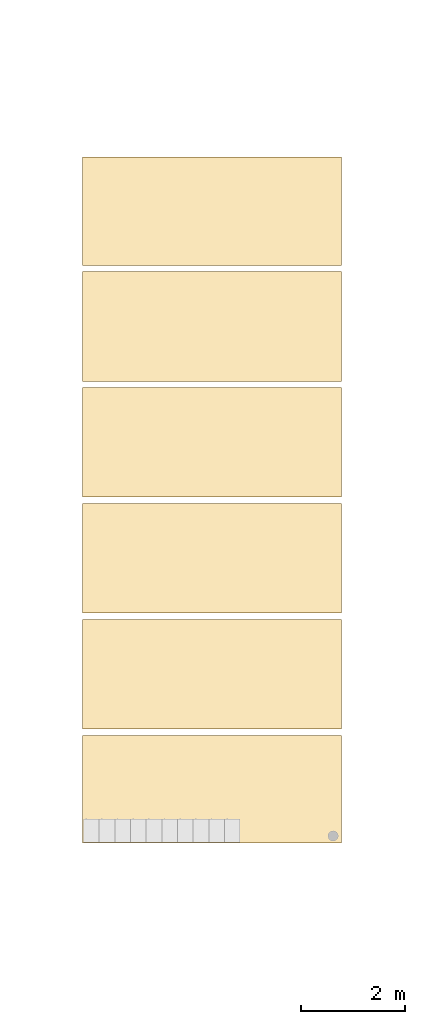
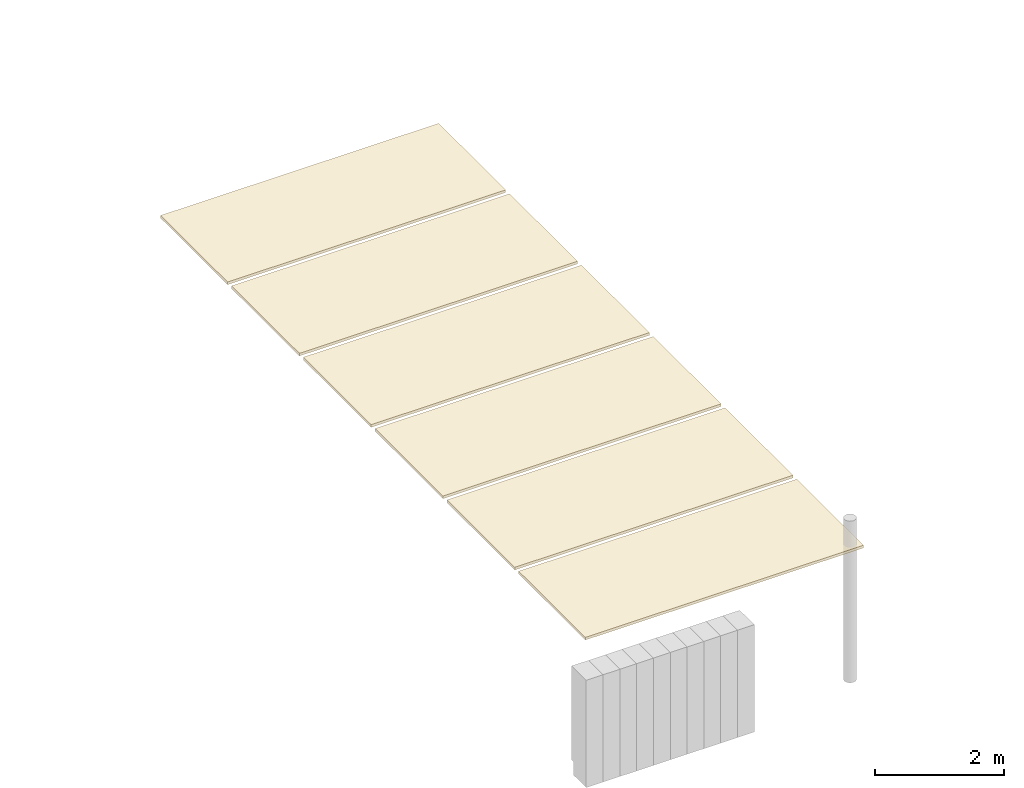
# One storey, part 2 of 4: 6 coverings.
"""IFC2X3 building model written with IfcOpenShell, lengths in centimetres."""

import ifcopenshell
import ifcopenshell.guid

model = None  # the IFC model being written
_history = None  # IfcOwnerHistory: only IFC2X3 demands one
_inside = {}  # id of a spatial element -> (the spatial element, [elements in it])
_under = {}  # id of a project, library or spatial element -> (it, [spatial elements below it])
_declared = {}  # id of a project -> (the project, [libraries it declares])
_typed = {}  # id of a type object -> (the type object, [elements of that type])
_made_of = {}  # id of a material, layer set ... -> (it, [elements and type objects made of it])


def new_model(schema):
    """Start an empty IFC model of exactly this schema.

    Asked for "IFC4X3", IfcOpenShell would pick the latest addendum, in which some entities
    have other attributes; the version numbers below select the first issue.
    IFC2X3 requires an IfcOwnerHistory on every rooted entity: one is made here for all.
    """
    global model, _history
    if schema == "IFC4X3":
        model = ifcopenshell.file(schema_version=(4, 3, 0, 0))
    else:
        model = ifcopenshell.file(schema=schema)
    _inside.clear()
    _under.clear()
    _declared.clear()
    _typed.clear()
    _made_of.clear()
    _history = None
    if model.schema == "IFC2X3":
        org = make("IfcOrganization", Name="unknown")
        user = make(
            "IfcPersonAndOrganization",
            ThePerson=make("IfcPerson", FamilyName="unknown"),
            TheOrganization=org,
        )
        app = make(
            "IfcApplication",
            ApplicationDeveloper=org,
            Version="unknown",
            ApplicationFullName="unknown",
            ApplicationIdentifier="unknown",
        )
        _history = make(
            "IfcOwnerHistory",
            OwningUser=user,
            OwningApplication=app,
            ChangeAction="ADDED",
            CreationDate=0,
        )
    return model


def make(cls, **values):
    """One entity of the class cls with the attributes given. An attribute that is None is left unset."""
    return model.create_entity(
        cls, **{name: value for name, value in values.items() if value is not None}
    )


def entity(cls, *values):
    """Any entity or typed value of the class cls, its attributes in the order of the schema. None: left unset."""
    e = model.create_entity(cls)
    for i, value in enumerate(values):
        if value is not None:
            e[i] = value
    return e


def rooted(cls, **values):
    """An entity with a GlobalId (a new one), such as an element, a storey or a relation."""
    return make(cls, GlobalId=ifcopenshell.guid.new(), OwnerHistory=_history, **values)


def si_unit(unit_type, name, prefix=None):
    """IfcSIUnit, for example si_unit("LENGTHUNIT", "METRE", prefix="MILLI")."""
    return make("IfcSIUnit", UnitType=unit_type, Prefix=prefix, Name=name)


def converted_unit(unit_type, name, factor, base, dimensions=None, offset=None):
    """IfcConversionBasedUnit, such as the inch: factor (a typed value) times the base unit."""
    return make(
        "IfcConversionBasedUnit"
        if offset is None
        else "IfcConversionBasedUnitWithOffset",
        ConversionOffset=offset,
        Dimensions=None
        if dimensions is None
        else entity("IfcDimensionalExponents", *dimensions),
        UnitType=unit_type,
        Name=name,
        ConversionFactor=make(
            "IfcMeasureWithUnit", ValueComponent=factor, UnitComponent=base
        ),
    )


def derived_unit(unit_type, elements):
    """IfcDerivedUnit: a product of units, each with its exponent."""
    return make(
        "IfcDerivedUnit",
        Elements=[
            make("IfcDerivedUnitElement", Unit=unit, Exponent=power)
            for unit, power in elements
        ],
        UnitType=unit_type,
    )


def assignment(units):
    """IfcUnitAssignment: the units of a project."""
    return None if units is None else make("IfcUnitAssignment", Units=units)


def point(xyz):
    """IfcCartesianPoint."""
    return None if xyz is None else make("IfcCartesianPoint", Coordinates=xyz)


def direction(xyz):
    """IfcDirection."""
    return None if xyz is None else make("IfcDirection", DirectionRatios=xyz)


def frame(location, z_axis=None, x_axis=None):
    """IfcAxis2Placement3D, a coordinate frame: its origin and axes. An axis left out is left unset."""
    return make(
        "IfcAxis2Placement3D",
        Location=point(location),
        Axis=direction(z_axis),
        RefDirection=direction(x_axis),
    )


def frame_2d(location, x_axis=None):
    """IfcAxis2Placement2D, a coordinate frame in the plane: its origin and x axis."""
    return make(
        "IfcAxis2Placement2D", Location=point(location), RefDirection=direction(x_axis)
    )


def origin():
    """The frame at (0, 0, 0) with its axes left unset."""
    return frame((0.0, 0.0, 0.0))


def place(relative_to, where):
    """IfcLocalPlacement: puts the frame where relative to a parent placement (None: the world)."""
    return make(
        "IfcLocalPlacement", PlacementRelTo=relative_to, RelativePlacement=where
    )


def context(
    kind, dimensions, precision=None, world=None, true_north=None, identifier=None
):
    """IfcGeometricRepresentationContext, for example the 3D "Model" context."""
    return make(
        "IfcGeometricRepresentationContext",
        ContextIdentifier=identifier,
        ContextType=kind,
        CoordinateSpaceDimension=dimensions,
        Precision=precision,
        WorldCoordinateSystem=world,
        TrueNorth=true_north,
    )


def subcontext(parent, identifier, kind, view, scale=None):
    """IfcGeometricRepresentationSubContext, for example "Body" below "Model"."""
    return make(
        "IfcGeometricRepresentationSubContext",
        ContextIdentifier=identifier,
        ContextType=kind,
        ParentContext=parent,
        TargetScale=scale,
        TargetView=view,
    )


def project(units=None, contexts=None):
    """IfcProject with its units and contexts."""
    return rooted(
        "IfcProject",
        Name="project",
        RepresentationContexts=contexts,
        UnitsInContext=assignment(units),
    )


def spatial(cls, under=None, at=None, **own):
    """A site, building, storey or space (cls), placed at a placement, below another one or the project."""
    s = rooted(cls, ObjectPlacement=at, **own)
    if under is not None:
        _under.setdefault(under.id(), (under, []))[1].append(s)
    return s


def profile(cls, at=None, kind="AREA", **sizes):
    """A parametric profile (cls). Its sizes go by their IFC names, for example OverallWidth=200.0."""
    return make(cls, ProfileType=kind, Position=at, **sizes)


def rectangle(**sizes):
    """IfcRectangleProfileDef."""
    return profile("IfcRectangleProfileDef", **sizes)


def extrude(swept, where, along, depth):
    """IfcExtrudedAreaSolid: the profile swept, set in the frame where, extruded along a direction by depth."""
    return make(
        "IfcExtrudedAreaSolid",
        SweptArea=swept,
        Position=where,
        ExtrudedDirection=direction(along),
        Depth=depth,
    )


def shape(context_of_items, identifier, shape_type, items):
    """IfcShapeRepresentation: the items that make up one representation, for example the "Body"."""
    return make(
        "IfcShapeRepresentation",
        ContextOfItems=context_of_items,
        RepresentationIdentifier=identifier,
        RepresentationType=shape_type,
        Items=items,
    )


def material(Name=None, Category=None):
    """IfcMaterial."""
    return make("IfcMaterial", Name=Name, Category=Category)


def layer(
    of_material, thickness, ventilated=None, Name=None, Category=None, Priority=None
):
    """IfcMaterialLayer: one layer of a wall or slab, of a material (None: an air gap)."""
    return make(
        "IfcMaterialLayer",
        Material=of_material,
        LayerThickness=thickness,
        IsVentilated=ventilated,
        Name=Name,
        Category=Category,
        Priority=Priority,
    )


def layer_set(layers, Name=None):
    """IfcMaterialLayerSet."""
    return make("IfcMaterialLayerSet", MaterialLayers=layers, LayerSetName=Name)


def layer_usage(for_layer_set, set_direction, sense, offset, extent=None):
    """IfcMaterialLayerSetUsage: how a layer set lies in its element."""
    return make(
        "IfcMaterialLayerSetUsage",
        ForLayerSet=for_layer_set,
        LayerSetDirection=set_direction,
        DirectionSense=sense,
        OffsetFromReferenceLine=offset,
        ReferenceExtent=extent,
    )


def made_of(thing, what):
    """Note that an element or type object is made of a material, layer set ...; save() writes the relation."""
    if what is not None:
        _made_of.setdefault(what.id(), (what, []))[1].append(thing)
    return thing


def element(
    cls,
    number,
    at=None,
    inside=None,
    cuts=None,
    type_object=None,
    material=None,
    context=None,
    identifier="Body",
    shape_type=None,
    held_by="IfcProductDefinitionShape",
    body=None,
    shapes=None,
    **own,
):
    """One element of the class cls, such as IfcWall. Its Tag is "e" and its number.

    at: its placement. inside: the storey or other place that contains it. cuts: it is an
    opening in that element (IfcRelVoidsElement). A single representation is given by context,
    identifier, shape_type and body (its items); several are given by shapes. held_by: the class
    of the entity that holds the representations. save() writes the other relations.
    """
    e = rooted(cls, Tag="e%d" % number, ObjectPlacement=at, **own)
    if body is not None:
        shapes = [shape(context, identifier, shape_type, body)]
    if shapes is not None:
        e.Representation = make(held_by, Representations=shapes)
    if inside is not None:
        _inside.setdefault(inside.id(), (inside, []))[1].append(e)
    if cuts is not None:
        rooted(
            "IfcRelVoidsElement", RelatingBuildingElement=cuts, RelatedOpeningElement=e
        )
    if type_object is not None:
        _typed.setdefault(type_object.id(), (type_object, []))[1].append(e)
    return made_of(e, material)


def aggregate(whole, parts):
    """IfcRelAggregates: a whole, such as a stair, and the parts it consists of."""
    return rooted("IfcRelAggregates", RelatingObject=whole, RelatedObjects=parts)


def save(model, path):
    """Write the relations noted so far, then the file.

    IfcRelAggregates (storeys below a building ...), IfcRelContainedInSpatialStructure (elements
    in a storey), IfcRelDefinesByType, IfcRelAssociatesMaterial and IfcRelDeclares: one each for
    every whole, place, type object, material and project.
    """
    for whole, parts in _under.values():
        aggregate(whole, parts)
    for where, things in _inside.values():
        rooted(
            "IfcRelContainedInSpatialStructure",
            RelatedElements=things,
            RelatingStructure=where,
        )
    for kind, things in _typed.values():
        rooted("IfcRelDefinesByType", RelatedObjects=things, RelatingType=kind)
    for what, things in _made_of.values():
        rooted("IfcRelAssociatesMaterial", RelatedObjects=things, RelatingMaterial=what)
    for by, libraries in _declared.values():
        rooted("IfcRelDeclares", RelatingContext=by, RelatedDefinitions=libraries)
    model.write(path)


model = new_model("IFC2X3")

# Units and contexts
model_context = context("Model", 3, precision=0.001, world=origin(), true_north=direction((6.12303176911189e-17, 1.0)))
body_context = subcontext(model_context, "Body", "Model", "MODEL_VIEW")
ifc_project = project(units=[si_unit("LENGTHUNIT", "METRE", prefix="CENTI"), si_unit("AREAUNIT", "SQUARE_METRE"), si_unit("VOLUMEUNIT", "CUBIC_METRE"), converted_unit("PLANEANGLEUNIT", "DEGREE", entity("IfcRatioMeasure", 0.0174532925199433), si_unit("PLANEANGLEUNIT", "RADIAN"), dimensions=[0, 0, 0, 0, 0, 0, 0]), si_unit("MASSUNIT", "GRAM", prefix="KILO"), si_unit("TIMEUNIT", "SECOND"), si_unit("FREQUENCYUNIT", "HERTZ"), si_unit("THERMODYNAMICTEMPERATUREUNIT", "DEGREE_CELSIUS"), derived_unit("THERMALTRANSMITTANCEUNIT", [(si_unit("MASSUNIT", "GRAM", prefix="KILO"), 1), (si_unit("THERMODYNAMICTEMPERATUREUNIT", "KELVIN"), -1), (si_unit("TIMEUNIT", "SECOND"), -3)]), derived_unit("VOLUMETRICFLOWRATEUNIT", [(si_unit("LENGTHUNIT", "METRE"), 3), (si_unit("TIMEUNIT", "SECOND"), -1)]), si_unit("ELECTRICCURRENTUNIT", "AMPERE"), si_unit("ELECTRICVOLTAGEUNIT", "VOLT"), si_unit("POWERUNIT", "WATT"), si_unit("FORCEUNIT", "NEWTON", prefix="KILO"), si_unit("ILLUMINANCEUNIT", "LUX"), si_unit("LUMINOUSFLUXUNIT", "LUMEN"), si_unit("LUMINOUSINTENSITYUNIT", "CANDELA"), derived_unit("USERDEFINED", [(si_unit("MASSUNIT", "GRAM", prefix="KILO"), -1), (si_unit("LENGTHUNIT", "METRE"), -2), (si_unit("TIMEUNIT", "SECOND"), 3), (si_unit("LUMINOUSFLUXUNIT", "LUMEN"), 1)]), derived_unit("LINEARVELOCITYUNIT", [(si_unit("LENGTHUNIT", "METRE"), 1), (si_unit("TIMEUNIT", "SECOND"), -1)]), si_unit("PRESSUREUNIT", "PASCAL"), derived_unit("USERDEFINED", [(si_unit("LENGTHUNIT", "METRE"), -2), (si_unit("MASSUNIT", "GRAM", prefix="KILO"), 1), (si_unit("TIMEUNIT", "SECOND"), -2)])], contexts=[model_context])

# Site, building, storey, space
site_placement = place(None, frame((8.62739174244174, -249.285249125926, 0.0)))
site = spatial("IfcSite", under=ifc_project, at=site_placement, Name="Default", CompositionType="ELEMENT")
building_placement = place(site_placement, origin())
building = spatial("IfcBuilding", under=site, at=building_placement, CompositionType="ELEMENT")
storey_placement = place(building_placement, frame((0.0, 0.0, 30.0)))
storey = spatial("IfcBuildingStorey", under=building, at=storey_placement, Name="vestiaires", CompositionType="ELEMENT", Elevation=30.0)
space_1_placement = place(storey_placement, origin())
space_1 = spatial("IfcSpace", under=storey, at=space_1_placement, Name="118", CompositionType="ELEMENT", InteriorOrExteriorSpace="INTERNAL")

# Covering
ifc_material = material(Name="Maçonnerie - Isolant_MU")
ifc_layer = layer(ifc_material, 5.0)
ifc_layer_set = layer_set([ifc_layer], Name="Plafond composé:Plafond avec isolation")
ifc_layer_usage_1 = layer_usage(ifc_layer_set, "AXIS3", "NEGATIVE", 0.0)
covering_1_placement = place(space_1_placement, frame((0.0, 0.0, -30.0)))
element("IfcCovering", 1, at=covering_1_placement, inside=space_1, material=ifc_layer_usage_1, Name="Plafond composé:Plafond avec isolation", ObjectType="Plafond composé:Plafond avec isolation", PredefinedType="CEILING", context=body_context, shape_type="SweptSolid", body=[
    extrude(rectangle(XDim=207.250000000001, YDim=496.499999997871, at=frame_2d((2.1316282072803e-13, -9.9475983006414e-14), x_axis=(1.0, 0.0))), frame((1284.90482780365, 2706.10520806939, 280.0), z_axis=(0.0, 0.0, 1.0), x_axis=(0.0, 1.0, 0.0)), (0.0, 0.0, 1.0), 5.0),
])

# Space
space_2_placement = place(storey_placement, origin())
space_2 = spatial("IfcSpace", under=storey, at=space_2_placement, Name="104", CompositionType="ELEMENT", InteriorOrExteriorSpace="INTERNAL")

# Covering
ifc_layer_usage_2 = layer_usage(ifc_layer_set, "AXIS3", "NEGATIVE", 0.0)
covering_2_placement = place(space_2_placement, frame((0.0, 0.0, -30.0)))
element("IfcCovering", 2, at=covering_2_placement, inside=space_2, material=ifc_layer_usage_2, Name="Plafond composé:Plafond avec isolation", ObjectType="Plafond composé:Plafond avec isolation", PredefinedType="CEILING", context=body_context, shape_type="SweptSolid", body=[
    extrude(rectangle(XDim=496.499999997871, YDim=210.0, at=frame_2d((-1.13686837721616e-13, -4.33431068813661e-13), x_axis=(1.0, 0.0))), frame((1284.90482780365, 2485.48020806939, 280.0)), (0.0, 0.0, 1.0), 5.0),
])

# Space
space_3_placement = place(storey_placement, origin())
space_3 = spatial("IfcSpace", under=storey, at=space_3_placement, Name="107", CompositionType="ELEMENT", InteriorOrExteriorSpace="INTERNAL")

# Covering
ifc_layer_usage_3 = layer_usage(ifc_layer_set, "AXIS3", "NEGATIVE", 0.0)
covering_3_placement = place(space_3_placement, frame((0.0, 0.0, -30.0)))
element("IfcCovering", 3, at=covering_3_placement, inside=space_3, material=ifc_layer_usage_3, Name="Plafond composé:Plafond avec isolation", ObjectType="Plafond composé:Plafond avec isolation", PredefinedType="CEILING", context=body_context, shape_type="SweptSolid", body=[
    extrude(rectangle(XDim=210.0, YDim=496.499999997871, at=frame_2d((2.1316282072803e-13, -9.9475983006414e-14), x_axis=(1.0, 0.0))), frame((1284.90482780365, 2263.48020806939, 280.0), z_axis=(0.0, 0.0, 1.0), x_axis=(0.0, 1.0, 0.0)), (0.0, 0.0, 1.0), 5.0),
])

# Space
space_4_placement = place(storey_placement, origin())
space_4 = spatial("IfcSpace", under=storey, at=space_4_placement, Name="109", CompositionType="ELEMENT", InteriorOrExteriorSpace="INTERNAL")

# Covering
ifc_layer_usage_4 = layer_usage(ifc_layer_set, "AXIS3", "NEGATIVE", 0.0)
covering_4_placement = place(space_4_placement, frame((0.0, 0.0, -30.0)))
element("IfcCovering", 4, at=covering_4_placement, inside=space_4, material=ifc_layer_usage_4, Name="Plafond composé:Plafond avec isolation", ObjectType="Plafond composé:Plafond avec isolation", PredefinedType="CEILING", context=body_context, shape_type="SweptSolid", body=[
    extrude(rectangle(XDim=210.000000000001, YDim=496.499999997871, at=frame_2d((-3.26849658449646e-13, 9.9475983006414e-14), x_axis=(1.0, 0.0))), frame((1284.90482780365, 1819.48020806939, 280.0), z_axis=(0.0, 0.0, 1.0), x_axis=(0.0, 1.0, 0.0)), (0.0, 0.0, 1.0), 5.0),
])

# Space
space_5_placement = place(storey_placement, origin())
space_5 = spatial("IfcSpace", under=storey, at=space_5_placement, Name="110", CompositionType="ELEMENT", InteriorOrExteriorSpace="INTERNAL")

# Covering
ifc_layer_usage_5 = layer_usage(ifc_layer_set, "AXIS3", "NEGATIVE", 0.0)
covering_5_placement = place(space_5_placement, frame((0.0, 0.0, -30.0)))
element("IfcCovering", 5, at=covering_5_placement, inside=space_5, material=ifc_layer_usage_5, Name="Plafond composé:Plafond avec isolation", ObjectType="Plafond composé:Plafond avec isolation", PredefinedType="CEILING", context=body_context, shape_type="SweptSolid", body=[
    extrude(rectangle(XDim=496.499999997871, YDim=205.999076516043, at=frame_2d((-1.13686837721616e-13, -1.13686837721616e-13), x_axis=(1.0, 0.0))), frame((1284.90482780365, 1599.48066981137, 280.0)), (0.0, 0.0, 1.0), 5.0),
])

# Space
space_6_placement = place(storey_placement, origin())
space_6 = spatial("IfcSpace", under=storey, at=space_6_placement, Name="108", CompositionType="ELEMENT", InteriorOrExteriorSpace="INTERNAL")

# Covering
ifc_layer_usage_6 = layer_usage(ifc_layer_set, "AXIS3", "NEGATIVE", 0.0)
covering_6_placement = place(space_6_placement, frame((0.0, 0.0, -30.0)))
element("IfcCovering", 6, at=covering_6_placement, inside=space_6, material=ifc_layer_usage_6, Name="Plafond composé:Plafond avec isolation", ObjectType="Plafond composé:Plafond avec isolation", PredefinedType="CEILING", context=body_context, shape_type="SweptSolid", body=[
    extrude(rectangle(XDim=496.499999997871, YDim=210.0, at=frame_2d((1.13686837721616e-13, -3.26849658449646e-13), x_axis=(1.0, 0.0))), frame((1284.90482780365, 2041.48020806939, 280.0)), (0.0, 0.0, 1.0), 5.0),
])

save(model, "model.ifc")
